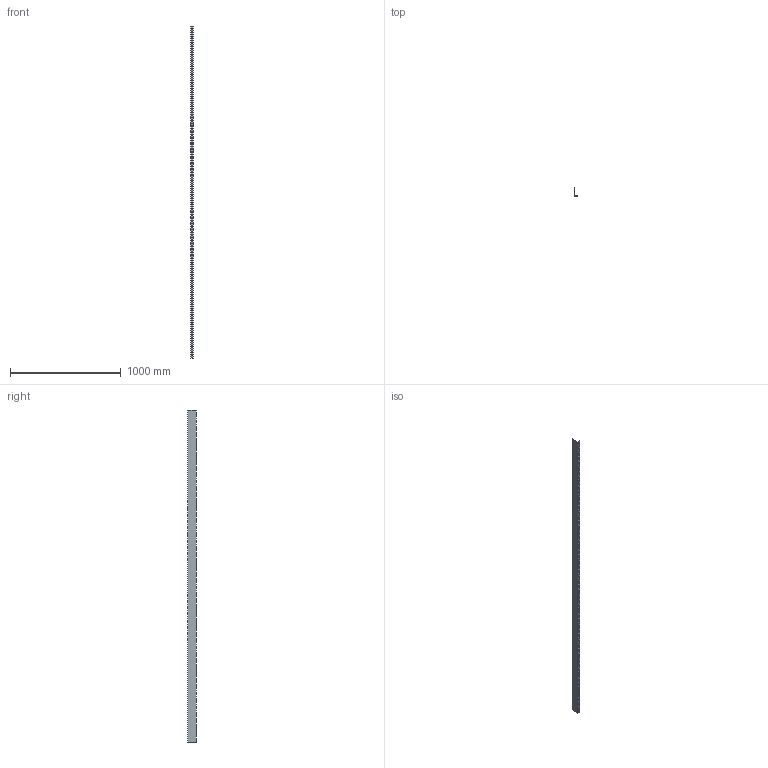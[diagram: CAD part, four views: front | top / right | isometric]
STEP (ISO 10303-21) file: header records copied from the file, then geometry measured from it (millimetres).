
FILE_DESCRIPTION (( 'STEP AP214' ), '1' );
FILE_NAME ('52D3C.step', '2025-02-21T14:23:37', ( '' ), ( '' ), 'SwSTEP 2.0', 'SolidWorks 2023', '' );
FILE_SCHEMA (( 'AUTOMOTIVE_DESIGN' ));
Length unit declared in the file: millimetre
Products named in the file (1): 52D3C
Bounding box: 27 x 74 x 3000 mm (x, y, z)
Volume: 230400 mm3; surface area: 584646.7 mm2
Topology: 1 solids, 1 shells, 296 faces, 882 edges, 588 vertices
Faces by surface type: plane 296
Entity records: 10037 total; most frequent: CARTESIAN_POINT 1767, ORIENTED_EDGE 1764, DIRECTION 1476, LINE 882, EDGE_CURVE 882, VECTOR 882, VERTEX_POINT 588, EDGE_LOOP 440
